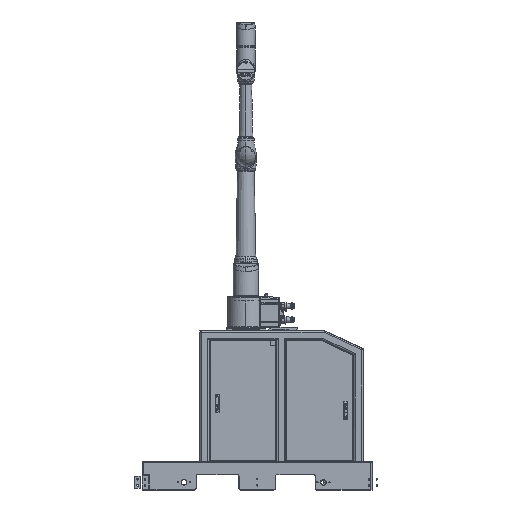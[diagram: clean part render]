
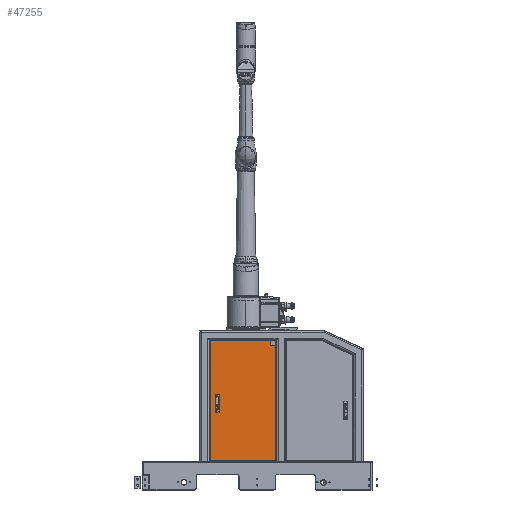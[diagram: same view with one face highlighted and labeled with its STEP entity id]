
A CAD part, front view. The second image highlights one B-rep face of the part: STEP entity #47255.
In plain terms, the highlighted planar face has unit normal (0, -1, 0) as drawn and (0, 1, 0) by its records, which use the part's own axes.
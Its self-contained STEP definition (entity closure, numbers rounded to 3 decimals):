
#45960=DIRECTION('',(-1.,0.,0.));
#45961=VECTOR('',#45960,429.);
#45962=CARTESIAN_POINT('',(214.,0.,-463.5));
#45963=LINE('',#45962,#45961);
#46298=DIRECTION('',(0.,0.,1.));
#46299=VECTOR('',#46298,787.);
#46300=CARTESIAN_POINT('',(-215.,0.,-463.5));
#46301=LINE('',#46300,#46299);
#46538=DIRECTION('',(1.,0.,0.));
#46539=VECTOR('',#46538,429.);
#46540=CARTESIAN_POINT('',(-215.,0.,323.5));
#46541=LINE('',#46540,#46539);
#46778=DIRECTION('',(0.,0.,-1.));
#46779=VECTOR('',#46778,787.);
#46780=CARTESIAN_POINT('',(214.,0.,323.5));
#46781=LINE('',#46780,#46779);
#46997=DIRECTION('',(-1.,0.,0.));
#46998=VECTOR('',#46997,23.);
#46999=CARTESIAN_POINT('',(-156.,0.,-38.5));
#47000=LINE('',#46999,#46998);
#47011=DIRECTION('',(0.,0.,-1.));
#47012=VECTOR('',#47011,63.);
#47013=CARTESIAN_POINT('',(-179.,0.,-38.5));
#47014=LINE('',#47013,#47012);
#47025=DIRECTION('',(1.,0.,0.));
#47026=VECTOR('',#47025,23.);
#47027=CARTESIAN_POINT('',(-179.,0.,-101.5));
#47028=LINE('',#47027,#47026);
#47039=DIRECTION('',(0.,0.,1.));
#47040=VECTOR('',#47039,63.);
#47041=CARTESIAN_POINT('',(-156.,0.,-101.5));
#47042=LINE('',#47041,#47040);
#47053=CARTESIAN_POINT('',(214.,0.,-463.5));
#47054=CARTESIAN_POINT('',(-215.,0.,-463.5));
#47055=VERTEX_POINT('',#47053);
#47056=VERTEX_POINT('',#47054);
#47057=CARTESIAN_POINT('',(214.,0.,323.5));
#47058=VERTEX_POINT('',#47057);
#47059=CARTESIAN_POINT('',(-215.,0.,323.5));
#47060=VERTEX_POINT('',#47059);
#47061=CARTESIAN_POINT('',(-156.,0.,-38.5));
#47062=CARTESIAN_POINT('',(-179.,0.,-38.5));
#47063=VERTEX_POINT('',#47061);
#47064=VERTEX_POINT('',#47062);
#47065=CARTESIAN_POINT('',(-156.,0.,-101.5));
#47066=VERTEX_POINT('',#47065);
#47067=CARTESIAN_POINT('',(-179.,0.,-101.5));
#47068=VERTEX_POINT('',#47067);
#47230=CARTESIAN_POINT('',(0.,0.,0.));
#47231=DIRECTION('',(0.,1.,0.));
#47232=DIRECTION('',(0.,0.,1.));
#47233=AXIS2_PLACEMENT_3D('',#47230,#47231,#47232);
#47234=PLANE('',#47233);
#47236=ORIENTED_EDGE('',*,*,#47235,.F.);
#47238=ORIENTED_EDGE('',*,*,#47237,.F.);
#47240=ORIENTED_EDGE('',*,*,#47239,.F.);
#47242=ORIENTED_EDGE('',*,*,#47241,.F.);
#47243=EDGE_LOOP('',(#47236,#47238,#47240,#47242));
#47244=FACE_OUTER_BOUND('',#47243,.F.);
#47246=ORIENTED_EDGE('',*,*,#47245,.F.);
#47248=ORIENTED_EDGE('',*,*,#47247,.F.);
#47250=ORIENTED_EDGE('',*,*,#47249,.F.);
#47252=ORIENTED_EDGE('',*,*,#47251,.F.);
#47253=EDGE_LOOP('',(#47246,#47248,#47250,#47252));
#47254=FACE_BOUND('',#47253,.F.);
#47235=EDGE_CURVE('',#47055,#47056,#45963,.T.);
#47237=EDGE_CURVE('',#47058,#47055,#46781,.T.);
#47239=EDGE_CURVE('',#47060,#47058,#46541,.T.);
#47241=EDGE_CURVE('',#47056,#47060,#46301,.T.);
#47245=EDGE_CURVE('',#47063,#47064,#47000,.T.);
#47247=EDGE_CURVE('',#47066,#47063,#47042,.T.);
#47249=EDGE_CURVE('',#47068,#47066,#47028,.T.);
#47251=EDGE_CURVE('',#47064,#47068,#47014,.T.);
#47255=ADVANCED_FACE('',(#47244,#47254),#47234,.T.);
